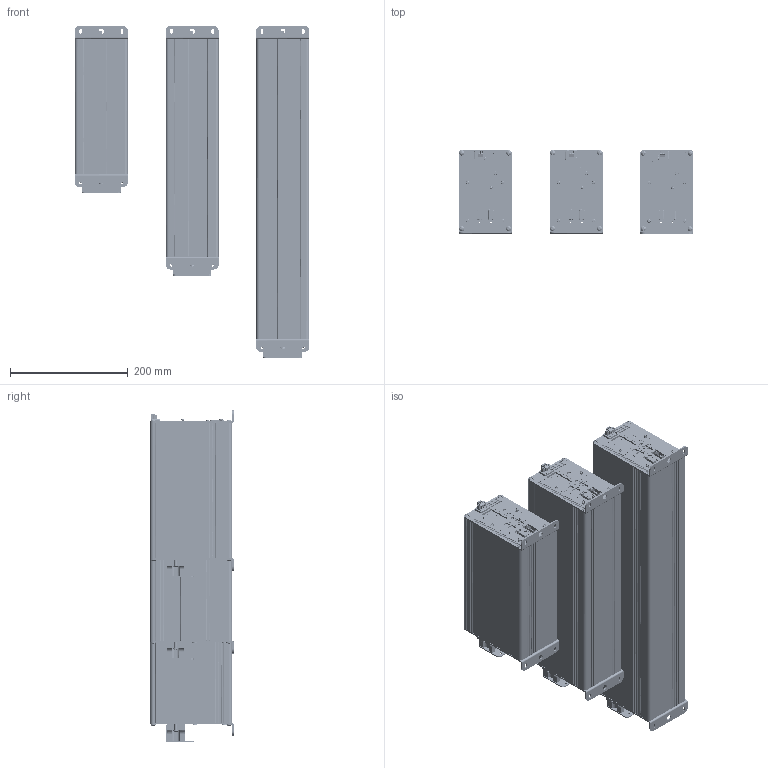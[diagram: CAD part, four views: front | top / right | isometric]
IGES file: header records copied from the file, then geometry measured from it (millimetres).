
Global section: file name: CVCOM조립품3_단순화_1,22HAutodesk; native system: Inventor 2026; preprocessor: unknown; author: Administrator; date: 20260716.114634; units: millimetre
Bounding box: 398.57 x 142.38 x 564.46 mm (x, y, z)
Volume: 1878349.5 mm3; surface area: 1496651.3 mm2
Topology: 27 solids, 27 shells, 15927 faces, 43767 edges, 29073 vertices
Faces by surface type: bspline 15927
